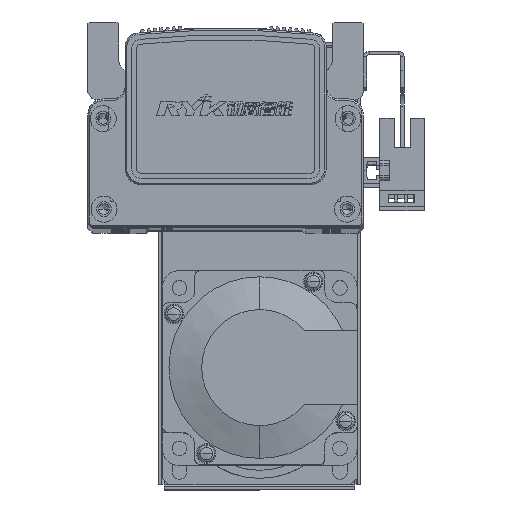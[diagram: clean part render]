
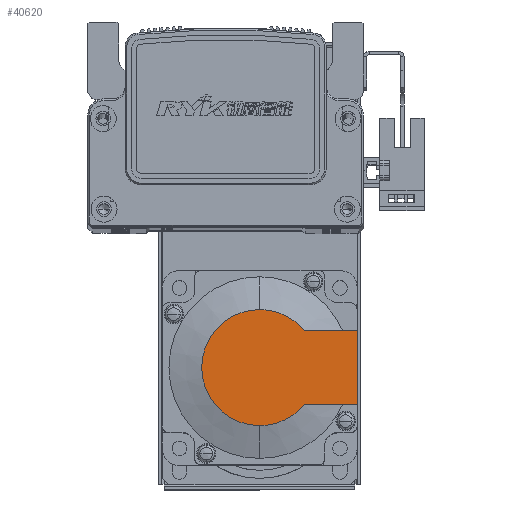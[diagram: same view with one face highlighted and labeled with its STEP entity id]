
A CAD part, top view. The second image highlights one B-rep face of the part: STEP entity #40620.
In plain terms, the highlighted planar face has unit normal (0, 0, 1) as drawn and (-1, 0, 0) by its records, which use the part's own axes.
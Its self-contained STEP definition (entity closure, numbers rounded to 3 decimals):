
#21 = CARTESIAN_POINT ( 'NONE',  ( -99., -8.941, -11.45 ) ) ;
#41 = DIRECTION ( 'NONE',  ( 0., -1., 0. ) ) ;
#934 = CARTESIAN_POINT ( 'NONE',  ( -99., 30., 25. ) ) ;
#950 = DIRECTION ( 'NONE',  ( 0., 0., 1. ) ) ;
#4409 = DIRECTION ( 'NONE',  ( -1., 0., 0. ) ) ;
#4414 = DIRECTION ( 'NONE',  ( 0., 0., -1. ) ) ;
#4419 = DIRECTION ( 'NONE',  ( 0., 0., -1. ) ) ;
#4434 = CARTESIAN_POINT ( 'NONE',  ( -99., 0., 0. ) ) ;
#4438 = DIRECTION ( 'NONE',  ( -1., 0., 0. ) ) ;
#4440 = CARTESIAN_POINT ( 'NONE',  ( -99., 0., 0. ) ) ;
#5983 = AXIS2_PLACEMENT_3D ( 'NONE', #4434, #4409, #4419 ) ;
#6134 = AXIS2_PLACEMENT_3D ( 'NONE', #4440, #4438, #4414 ) ;
#10196 = DIRECTION ( 'NONE',  ( 0., -1., 0. ) ) ;
#10207 = CARTESIAN_POINT ( 'NONE',  ( -99., 0., 11.45 ) ) ;
#10897 = DIRECTION ( 'NONE',  ( -1., 0., 0. ) ) ;
#10918 = DIRECTION ( 'NONE',  ( 0., 0., -1. ) ) ;
#10920 = CARTESIAN_POINT ( 'NONE',  ( -99., 0., 0. ) ) ;
#11133 = CIRCLE ( 'NONE', #52782, 17.881 ) ;
#11281 = VECTOR ( 'NONE', #10196, 1000. ) ;
#11319 = LINE ( 'NONE', #10207, #11281 ) ;
#12164 = LINE ( 'NONE', #934, #12176 ) ;
#12176 = VECTOR ( 'NONE', #950, 1000. ) ;
#12194 = LINE ( 'NONE', #21, #12210 ) ;
#12210 = VECTOR ( 'NONE', #41, 1000. ) ;
#12558 = CIRCLE ( 'NONE', #5983, 17.881 ) ;
#12640 = CIRCLE ( 'NONE', #6134, 17.881 ) ;
#21658 = EDGE_CURVE ( 'NONE', #63111, #63100, #12164, .T. ) ;
#21694 = EDGE_CURVE ( 'NONE', #63111, #63053, #12194, .T. ) ;
#22023 = EDGE_CURVE ( 'NONE', #30728, #62996, #12640, .T. ) ;
#22032 = EDGE_CURVE ( 'NONE', #30722, #30728, #12558, .T. ) ;
#25301 = CARTESIAN_POINT ( 'NONE',  ( -99., 13.735, 11.45 ) ) ;
#25335 = CARTESIAN_POINT ( 'NONE',  ( -99., 13.735, -11.45 ) ) ;
#25415 = CARTESIAN_POINT ( 'NONE',  ( -99., 30., 11.45 ) ) ;
#25422 = CARTESIAN_POINT ( 'NONE',  ( -99., 30., -11.45 ) ) ;
#30722 = VERTEX_POINT ( 'NONE', #71616 ) ;
#30728 = VERTEX_POINT ( 'NONE', #71610 ) ;
#40620 = ADVANCED_FACE ( 'NONE', ( #43837 ), #47056, .T. ) ;
#43837 = FACE_OUTER_BOUND ( 'NONE', #59861, .T. ) ;
#47025 = DIRECTION ( 'NONE',  ( -1., 0., 0. ) ) ;
#47027 = DIRECTION ( 'NONE',  ( 0., 0., 1. ) ) ;
#47048 = CARTESIAN_POINT ( 'NONE',  ( -99., -8.941, 0. ) ) ;
#47056 = PLANE ( 'NONE',  #52058 ) ;
#52058 = AXIS2_PLACEMENT_3D ( 'NONE', #47048, #47025, #47027 ) ;
#52782 = AXIS2_PLACEMENT_3D ( 'NONE', #10920, #10897, #10918 ) ;
#57393 = EDGE_CURVE ( 'NONE', #63053, #30722, #11133, .T. ) ;
#57521 = EDGE_CURVE ( 'NONE', #63100, #62996, #11319, .T. ) ;
#59861 = EDGE_LOOP ( 'NONE', ( #61093, #61205, #61123, #61251, #61129, #61141 ) ) ;
#61093 = ORIENTED_EDGE ( 'NONE', *, *, #21694, .T. ) ;
#61123 = ORIENTED_EDGE ( 'NONE', *, *, #22032, .T. ) ;
#61129 = ORIENTED_EDGE ( 'NONE', *, *, #57521, .F. ) ;
#61141 = ORIENTED_EDGE ( 'NONE', *, *, #21658, .F. ) ;
#61205 = ORIENTED_EDGE ( 'NONE', *, *, #57393, .T. ) ;
#61251 = ORIENTED_EDGE ( 'NONE', *, *, #22023, .T. ) ;
#62996 = VERTEX_POINT ( 'NONE', #25301 ) ;
#63053 = VERTEX_POINT ( 'NONE', #25335 ) ;
#63100 = VERTEX_POINT ( 'NONE', #25415 ) ;
#63111 = VERTEX_POINT ( 'NONE', #25422 ) ;
#71610 = CARTESIAN_POINT ( 'NONE',  ( -99., 0., 17.881 ) ) ;
#71616 = CARTESIAN_POINT ( 'NONE',  ( -99., 0., -17.881 ) ) ;
